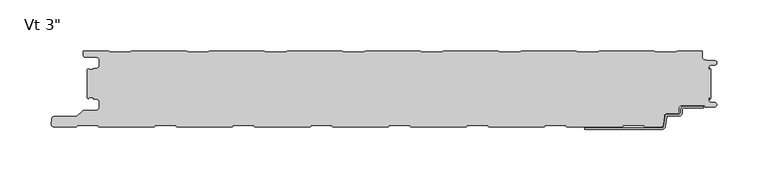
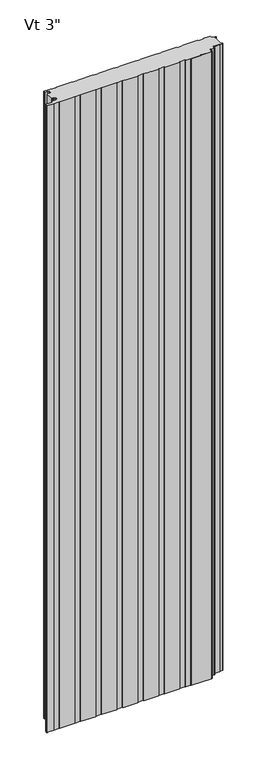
"""IFC4 building model written with IfcOpenShell, lengths in millimetres: plate geometry."""

from ifc_helpers import new_model, si_unit, point, frame, frame_2d, origin, origin_with_axes, place, context, project, spatial, polyline, circle_curve, trimmed, segment, composite_curve, outline, extrude, source, transform, mapped, element, save
from ifc_brep_helpers import plane_surface, cylinder_surface, revolved_surface, advanced_brep


def plate_fe51cd75(model_context):
    return source(origin(), model_context, "Body", "SolidModel", [
        advanced_brep(
        [(278.4543181, -55.1008679, 0.0), (297.1995181, -55.1008679, 0.0), (297.1995181, -56.6248679, 0.0), (278.4543181, -56.6248679, 0.0), (276.9303181, -58.1488679, 0.0), (276.9303181, -61.2476679, 0.0), (273.4759181, -64.7020679, 0.0), (262.2633607, -64.7020679, 0.0), (261.5042604, -65.3976552, 0.0), (260.3094328, -74.9416507, 0.0), (257.2730313, -77.724, 0.0), (181.7057181, -77.7360323, 0.0), (181.7057181, -76.2, 0.0), (257.2730313, -76.2, 0.0), (258.7912321, -74.8088254, 0.0), (259.9860597, -65.2648299, 0.0), (262.2633607, -63.1780679, 0.0), (273.4759181, -63.1780679, 0.0), (275.4063181, -61.2476679, 0.0), (275.4063181, -58.1488679, 0.0), (278.4543181, -55.1008679, 2400.0), (275.4063181, -58.1488679, 2400.0), (275.4063181, -61.2476679, 2400.0), (273.4759181, -63.1780679, 2400.0), (262.2633607, -63.1780679, 2400.0), (259.9860597, -65.2648299, 2400.0), (258.7912321, -74.8088254, 2400.0), (257.2730313, -76.2, 2400.0), (181.7057181, -76.2, 2400.0), (181.7057181, -77.7360323, 2400.0), (257.2730313, -77.7360323, 2400.0), (260.3094328, -74.9416507, 2400.0), (261.5042604, -65.3976552, 2400.0), (262.2633607, -64.7020679, 2400.0), (273.4759181, -64.7020679, 2400.0), (276.9303181, -61.2476679, 2400.0), (276.9303181, -58.1488679, 2400.0), (278.4543181, -56.6248679, 2400.0), (297.1995181, -56.6248679, 2400.0), (297.1995181, -55.1008679, 2400.0)],
        [
            (0, 1),
            (1, 2),
            (2, 3),
            (3, 4, circle_curve(frame((278.4543181, -58.1488679, 0.0), z_axis=(0.0, 0.0, 1.0), x_axis=(0.0, 1.0, 0.0)), 1.524)),
            (4, 5),
            (5, 6, circle_curve(frame((273.4759181, -61.2476679, 0.0), z_axis=(0.0, 0.0, -1.0), x_axis=(0.0, 1.0, 0.0)), 3.4544)),
            (6, 7),
            (7, 8, circle_curve(frame((262.2633607, -65.4640679, 0.0), z_axis=(0.0, 0.0, 1.0), x_axis=(0.0, 1.0, 0.0)), 0.762)),
            (8, 9),
            (9, 10, circle_curve(frame((257.2730313, -74.676, 0.0), z_axis=(0.0, 0.0, -1.0), x_axis=(0.0, 1.0, 0.0)), 3.048)),
            (10, 11),
            (11, 12),
            (12, 13),
            (13, 14, circle_curve(frame((257.2730313, -74.676, 0.0), z_axis=(0.0, 0.0, 1.0), x_axis=(0.0, 1.0, 0.0)), 1.524)),
            (14, 15),
            (15, 16, circle_curve(frame((262.2633607, -65.4640679, 0.0), z_axis=(0.0, 0.0, -1.0), x_axis=(0.0, 1.0, 0.0)), 2.286)),
            (16, 17),
            (17, 18, circle_curve(frame((273.4759181, -61.2476679, 0.0), z_axis=(0.0, 0.0, 1.0), x_axis=(0.0, 1.0, 0.0)), 1.9304)),
            (18, 19),
            (19, 0, circle_curve(frame((278.4543181, -58.1488679, 0.0), z_axis=(0.0, 0.0, -1.0), x_axis=(0.0, 1.0, 0.0)), 3.048)),
            (20, 21, circle_curve(frame((278.4543181, -58.1488679, 2400.0), z_axis=(0.0, 0.0, 1.0), x_axis=(0.0, 1.0, 0.0)), 3.048)),
            (21, 22),
            (22, 23, circle_curve(frame((273.4759181, -61.2476679, 2400.0), z_axis=(0.0, 0.0, -1.0), x_axis=(0.0, 1.0, 0.0)), 1.9304)),
            (23, 24),
            (24, 25, circle_curve(frame((262.2633607, -65.4640679, 2400.0), z_axis=(0.0, 0.0, 1.0), x_axis=(0.0, 1.0, 0.0)), 2.286)),
            (25, 26),
            (26, 27, circle_curve(frame((257.2730313, -74.676, 2400.0), z_axis=(0.0, 0.0, -1.0), x_axis=(0.0, 1.0, 0.0)), 1.524)),
            (27, 28),
            (28, 29),
            (29, 30),
            (30, 31, circle_curve(frame((257.2730313, -74.676, 2400.0), z_axis=(0.0, 0.0, 1.0), x_axis=(0.0, 1.0, 0.0)), 3.048)),
            (31, 32),
            (32, 33, circle_curve(frame((262.2633607, -65.4640679, 2400.0), z_axis=(0.0, 0.0, -1.0), x_axis=(0.0, 1.0, 0.0)), 0.762)),
            (33, 34),
            (34, 35, circle_curve(frame((273.4759181, -61.2476679, 2400.0), z_axis=(0.0, 0.0, 1.0), x_axis=(0.0, 1.0, 0.0)), 3.4544)),
            (35, 36),
            (36, 37, circle_curve(frame((278.4543181, -58.1488679, 2400.0), z_axis=(0.0, 0.0, -1.0), x_axis=(0.0, 1.0, 0.0)), 1.524)),
            (37, 38),
            (38, 39),
            (39, 20),
            (2, 38),
            (37, 3),
            (15, 25),
            (24, 16),
            (7, 33),
            (32, 8),
            (5, 35),
            (34, 6),
            (1, 39),
            (36, 4),
            (9, 31),
            (30, 10),
            (13, 27),
            (26, 14),
            (0, 20),
            (12, 28),
            (29, 11),
            (23, 17),
            (18, 22),
            (21, 19),
        ],
        [
            plane_surface(frame((297.1995181, -76.2, 0.0), z_axis=(0.0, 0.0, -1.0), x_axis=(-1.0, 0.0, 0.0))),
            plane_surface(frame((297.1995181, -76.2, 2400.0), z_axis=(0.0, 0.0, 1.0), x_axis=(-1.0, 0.0, 0.0))),
            plane_surface(frame((278.4543181, -56.6248679, 0.0), z_axis=(0.0, -1.0, 0.0), x_axis=(0.0, 0.0, 1.0))),
            cylinder_surface(frame((262.2633607, -65.4640679, 0.0), z_axis=(0.0, 0.0, -1.0), x_axis=(0.0, 1.0, 0.0)), 2.286),
            revolved_surface(polyline([(262.2633607, -64.7020679, 2400.0), (262.2633607, -64.7020679, 0.0)]), (262.2633607, -65.4640679, 0.0), (0.0, 0.0, 1.0)),
            cylinder_surface(frame((273.4759181, -61.2476679, 0.0), z_axis=(0.0, 0.0, -1.0), x_axis=(0.0, 1.0, 0.0)), 3.4544),
            plane_surface(frame((297.1995181, -56.6248679, 0.0), z_axis=(1.0, 0.0, 0.0), x_axis=(0.0, 0.0, 1.0))),
            revolved_surface(polyline([(278.4543181, -56.6248679, 2400.0), (278.4543181, -56.6248679, 0.0)]), (278.4543181, -58.1488679, 0.0), (0.0, 0.0, 1.0)),
            cylinder_surface(frame((257.2730313, -74.676, 0.0), z_axis=(0.0, 0.0, -1.0), x_axis=(0.0, 1.0, 0.0)), 3.048),
            revolved_surface(polyline([(257.2730313, -73.152, 2400.0), (257.2730313, -73.152, 0.0)]), (257.2730313, -74.676, 0.0), (0.0, 0.0, 1.0)),
            plane_surface(frame((297.1995181, -55.1008679, 0.0), z_axis=(0.0, 1.0, 0.0), x_axis=(0.0, 0.0, 1.0))),
            plane_surface(frame((259.9860597, -65.2648299, 0.0), z_axis=(-0.992254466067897, 0.12422187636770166, 0.0), x_axis=(0.0, 0.0, 1.0))),
            plane_surface(frame((257.2730313, -76.2, 0.0), z_axis=(0.0, 1.0, 0.0), x_axis=(0.0, 0.0, 1.0))),
            plane_surface(frame((260.3094328, -74.9416507, 0.0), z_axis=(0.9922544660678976, -0.12422187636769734, 0.0), x_axis=(0.0, 0.0, 1.0))),
            plane_surface(frame((276.9303181, -61.2476679, 0.0), z_axis=(1.0, 0.0, 0.0), x_axis=(0.0, 0.0, 1.0))),
            plane_surface(frame((181.7057181, -77.7360323, 0.0), z_axis=(0.0, -1.0, 0.0), x_axis=(0.0, 0.0, 1.0))),
            plane_surface(frame((181.7057181, -76.2, 0.0), z_axis=(-1.0, 0.0, 0.0), x_axis=(0.0, 0.0, 1.0))),
            plane_surface(frame((273.4759181, -63.1780679, 0.0), z_axis=(0.0, 1.0, 0.0), x_axis=(0.0, 0.0, 1.0))),
            plane_surface(frame((275.4063181, -58.1488679, 0.0), z_axis=(-1.0, 0.0, 0.0), x_axis=(0.0, 0.0, 1.0))),
            plane_surface(frame((262.2633607, -64.7020679, 0.0), z_axis=(0.0, -1.0, 0.0), x_axis=(0.0, 0.0, 1.0))),
            revolved_surface(polyline([(273.4759181, -59.317267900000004, 2400.0), (273.4759181, -59.317267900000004, 0.0)]), (273.4759181, -61.2476679, 0.0), (0.0, 0.0, 1.0)),
            cylinder_surface(frame((278.4543181, -58.1488679, 0.0), z_axis=(0.0, 0.0, -1.0), x_axis=(0.0, 1.0, 0.0)), 3.048),
        ],
        [
            (0, [[1, 2, 3, 4, 5, 6, 7, 8, 9, 10, 11, 12, 13, 14, 15, 16, 17, 18, 19, 20]]),
            (1, [[21, 22, 23, 24, 25, 26, 27, 28, 29, 30, 31, 32, 33, 34, 35, 36, 37, 38, 39, 40]]),
            (2, [[41, -38, 42, -3]]),
            (3, [[43, -25, 44, -16]]),
            (4, [[45, -33, 46, -8]]),
            (5, [[47, -35, 48, -6]]),
            (6, [[49, -39, -41, -2]]),
            (7, [[-42, -37, 50, -4]]),
            (8, [[51, -31, 52, -10]]),
            (9, [[53, -27, 54, -14]]),
            (10, [[55, -40, -49, -1]]),
            (11, [[-54, -26, -43, -15]]),
            (12, [[56, -28, -53, -13]]),
            (13, [[-46, -32, -51, -9]]),
            (14, [[-50, -36, -47, -5]]),
            (15, [[-52, -30, 57, -11]]),
            (16, [[-57, -29, -56, -12]]),
            (17, [[-44, -24, 58, -17]]),
            (18, [[59, -22, 60, -19]]),
            (19, [[-48, -34, -45, -7]]),
            (20, [[-58, -23, -59, -18]]),
            (21, [[-60, -21, -55, -20]]),
        ],
    ),
        extrude(outline(composite_curve([segment(polyline([(-303.7683001, -47.8760161), (-304.8, -46.8443162), (-304.8, -19.0328308), (-303.7686883, -18.0015192)]), True, "CONTINUOUS"), segment(trimmed(circle_curve(frame_2d((-302.7686911, -18.0015133)), 0.9999972), [point((-303.7686883, -18.0015192))], [point((-302.7686911, -19.0015105))], True, "CARTESIAN"), True, "CONTINUOUS"), segment(polyline([(-302.7686911, -19.0015105), (-298.7684875, -19.0015105), (-298.7684875, -18.0015159), (-296.0762777, -18.0015159)]), True, "CONTINUOUS"), segment(trimmed(circle_curve(frame_2d((-296.0762777, -14.7015202)), 3.2999957), [point((-296.0762777, -18.0015159))], [point((-292.776282, -14.7015202))], True, "CARTESIAN"), True, "CONTINUOUS"), segment(polyline([(-292.776282, -14.7015202), (-292.776282, -10.301529)]), True, "CONTINUOUS"), segment(trimmed(circle_curve(frame_2d((-296.0762778, -10.301529)), 3.2999959), [point((-292.776282, -10.301529))], [point((-296.0762778, -7.0015331))], True, "CARTESIAN"), True, "CONTINUOUS"), segment(polyline([(-296.0762778, -7.0015331), (-306.4962564, -7.0015331)]), True, "CONTINUOUS"), segment(trimmed(circle_curve(frame_2d((-306.4962564, -5.2315389)), 1.7699942), [point((-306.4962564, -7.0015331))], [point((-308.2662506, -5.2315389))], False, "CARTESIAN"), True, "CONTINUOUS"), segment(polyline([(-308.2662506, -5.2315389), (-308.2662506, -0.9999916), (-283.765974, -0.9999916), (-282.3803313, -2.2002307), (-263.005165, -2.2002307), (-261.6195321, -1.0), (-207.5661167, -1.0), (-206.1804837, -2.2002307), (-186.8053174, -2.2002307), (-185.4196845, -1.0), (-131.3662691, -1.0), (-129.9806361, -2.2002307), (-110.6054698, -2.2002307), (-109.2198369, -1.0), (-55.1664215, -1.0), (-53.7807885, -2.2002307), (-34.4056222, -2.2002307), (-33.0199893, -1.0), (21.0334261, -1.0), (22.4190591, -2.2002307), (41.7942254, -2.2002307), (43.1798583, -1.0), (97.2332737, -1.0), (98.6189067, -2.2002307), (117.994073, -2.2002307), (119.3797059, -1.0), (173.4331213, -1.0), (174.8187543, -2.2002307), (194.1939206, -2.2002307), (195.5795535, -1.0), (249.6329689, -1.0), (251.0186019, -2.2002307), (270.3937682, -2.2002307), (271.7794011, -1.0), (296.2787013, -1.0), (296.2787013, -6.0026007)]), True, "CONTINUOUS"), segment(trimmed(circle_curve(frame_2d((300.2939817, -5.9867338)), 4.0153117), [point((296.2787013, -6.0026007))], [point((300.1016499, -9.9974365))], True, "CARTESIAN"), True, "CONTINUOUS"), segment(polyline([(300.1016499, -9.9974365), (308.5931719, -10.4046442)]), True, "CONTINUOUS"), segment(trimmed(circle_curve(frame_2d((308.4781032, -12.5552871)), 2.153719), [point((308.5931719, -10.4046442))], [point((308.5921924, -14.7059822))], False, "CARTESIAN"), True, "CONTINUOUS"), segment(polyline([(308.5921924, -14.7059822), (304.4513685, -14.9256429)]), True, "CONTINUOUS"), segment(trimmed(circle_curve(frame_2d((304.5186869, -16.6743462)), 1.7499985), [point((304.4513685, -14.9256429))], [point((302.7686884, -16.6743462))], True, "CARTESIAN"), True, "CONTINUOUS"), segment(polyline([(302.7686884, -16.6743462), (302.7686884, -19.0015288), (303.7686884, -19.0015288), (303.7686884, -17.5871409), (304.8, -18.6184525), (304.8, -47.2586945), (303.7686884, -48.2900061), (303.7686884, -46.7025061), (302.7686884, -46.7025061), (302.7686884, -49.4870527)]), True, "CONTINUOUS"), segment(trimmed(circle_curve(frame_2d((304.6099653, -49.4434917)), 1.8417922), [point((302.7686884, -49.4870527))], [point((304.4977997, -51.2818653))], True, "CARTESIAN"), True, "CONTINUOUS"), segment(polyline([(304.4977997, -51.2818653), (308.5037148, -51.5262802)]), True, "CONTINUOUS"), segment(trimmed(circle_curve(frame_2d((308.4236622, -53.6266291)), 2.1018739), [point((308.5037148, -51.5262802))], [point((308.506811, -55.7268578))], False, "CARTESIAN"), True, "CONTINUOUS"), segment(polyline([(308.506811, -55.7268578), (299.5334028, -56.0821181), (298.3895515, -54.1012703), (277.2091924, -54.1012703)]), True, "CONTINUOUS"), segment(trimmed(circle_curve(frame_2d((277.2091924, -58.1007233)), 3.9994529), [point((277.2091924, -54.1012703))], [point((273.2097394, -58.1007233))], True, "CARTESIAN"), True, "CONTINUOUS"), segment(polyline([(273.2097394, -58.1007233), (273.2097394, -61.2443786)]), True, "CONTINUOUS"), segment(trimmed(circle_curve(frame_2d((272.2583308, -61.2443786)), 0.9514087), [point((273.2097394, -61.2443786))], [point((272.2583308, -62.1957873))], False, "CARTESIAN"), True, "CONTINUOUS"), segment(polyline([(272.2583308, -62.1957873), (262.1653654, -62.1957873)]), True, "CONTINUOUS"), segment(trimmed(circle_curve(frame_2d((262.0396267, -65.2231732)), 3.0299959), [point((262.1653654, -62.1957873))], [point((259.021161, -64.9590902))], True, "CARTESIAN"), True, "CONTINUOUS"), segment(polyline([(259.021161, -64.9590902), (258.2671075, -73.4178029)]), True, "CONTINUOUS"), segment(trimmed(circle_curve(frame_2d((256.3156233, -73.2461194)), 1.9590216), [point((258.2671075, -73.4178029))], [point((256.3156233, -75.2051411))], False, "CARTESIAN"), True, "CONTINUOUS"), segment(polyline([(256.3156233, -75.2051411), (240.2456965, -75.2051411), (239.0403247, -73.9997693), (219.3209122, -73.9997693), (218.1206815, -75.2), (164.0405497, -75.2), (162.840319, -73.9997693), (143.1209065, -73.9997693), (141.9206758, -75.2), (87.840544, -75.2), (86.6403133, -73.9997693), (66.9209008, -73.9997693), (65.7206701, -75.2), (11.6405383, -75.2), (10.4403076, -73.9997693), (-9.2791049, -73.9997693), (-10.4793356, -75.2), (-64.5594674, -75.2), (-65.7596981, -73.9997693), (-85.4791106, -73.9997693), (-86.6793413, -75.2), (-140.7594731, -75.2), (-141.9597038, -73.9997693), (-161.6791163, -73.9997693), (-162.879347, -75.2), (-216.9594787, -75.2), (-218.1597095, -73.9997693), (-237.879122, -73.9997693), (-239.0793527, -75.2), (-293.1594844, -75.2), (-294.3597151, -73.9997693), (-314.0791277, -73.9997693), (-315.2790962, -75.1997378), (-337.2521176, -75.1997378)]), True, "CONTINUOUS"), segment(trimmed(circle_curve(frame_2d((-337.2521176, -72.6294985)), 2.5702393), [point((-337.2521176, -75.1997378))], [point((-339.8125699, -72.4054129))], False, "CARTESIAN"), True, "CONTINUOUS"), segment(polyline([(-339.8125699, -72.4054129), (-339.3765709, -67.423592)]), True, "CONTINUOUS"), segment(trimmed(circle_curve(frame_2d((-336.7198392, -67.9049826)), 2.6999926), [point((-339.3765709, -67.423592))], [point((-336.7198392, -65.20499))], False, "CARTESIAN"), True, "CONTINUOUS"), segment(polyline([(-336.7198392, -65.20499), (-314.6247096, -65.20499), (-309.1226385, -59.7029189)]), True, "CONTINUOUS"), segment(trimmed(circle_curve(frame_2d((-307.9205608, -60.9049966)), 1.6999946), [point((-309.1226385, -59.7029189))], [point((-307.9205608, -59.205002))], False, "CARTESIAN"), True, "CONTINUOUS"), segment(polyline([(-307.9205608, -59.205002), (-296.1096717, -59.205002)]), True, "CONTINUOUS"), segment(trimmed(circle_curve(frame_2d((-296.1096717, -55.8550067)), 3.3499953), [point((-296.1096717, -59.205002))], [point((-292.7596764, -55.8550067))], True, "CARTESIAN"), True, "CONTINUOUS"), segment(polyline([(-292.7596764, -55.8550067), (-292.7596764, -51.4550155)]), True, "CONTINUOUS"), segment(trimmed(circle_curve(frame_2d((-296.1096717, -51.4550155)), 3.3499953), [point((-292.7596764, -51.4550155))], [point((-296.1096717, -48.1050202))], True, "CARTESIAN"), True, "CONTINUOUS"), segment(polyline([(-296.1096717, -48.1050202), (-298.8087827, -48.1050202), (-298.8087827, -46.7065413), (-302.5671761, -46.7065413)]), True, "CONTINUOUS"), segment(trimmed(circle_curve(frame_2d((-302.5686908, -47.906538)), 1.1999976), [point((-302.5671761, -46.7065413))], [point((-303.7683001, -47.8760161))], True, "CARTESIAN"), True, "CONTINUOUS")], self_intersect=False)), origin_with_axes(), (0.0, 0.0, 1.0), 2400.0),
    ])


if __name__ == "__main__":
    model = new_model("IFC4")
    model_context = context("Model", 3, world=origin())
    ifc_project = project(units=[si_unit("LENGTHUNIT", "METRE", prefix="MILLI")], contexts=[model_context])
    site = spatial("IfcSite", under=ifc_project)
    building = spatial("IfcBuilding", under=site)
    placement = place(None, origin())
    plate_shape = plate_fe51cd75(model_context)
    element("IfcPlate", 1, ObjectType="KIP-24-Karrier-KP-R19-CP-Vt-SL3-8in_SL : Vt 3\"", at=placement, inside=building, context=model_context, shape_type="MappedRepresentation", body=[
        mapped(plate_shape, transform((0.0, 0.0, 0.0), x_axis=(1.0, 0.0, 0.0), y_axis=(0.0, 1.0, 0.0), z_axis=(0.0, 0.0, 1.0))),
    ])
    save(model, "model.ifc")
